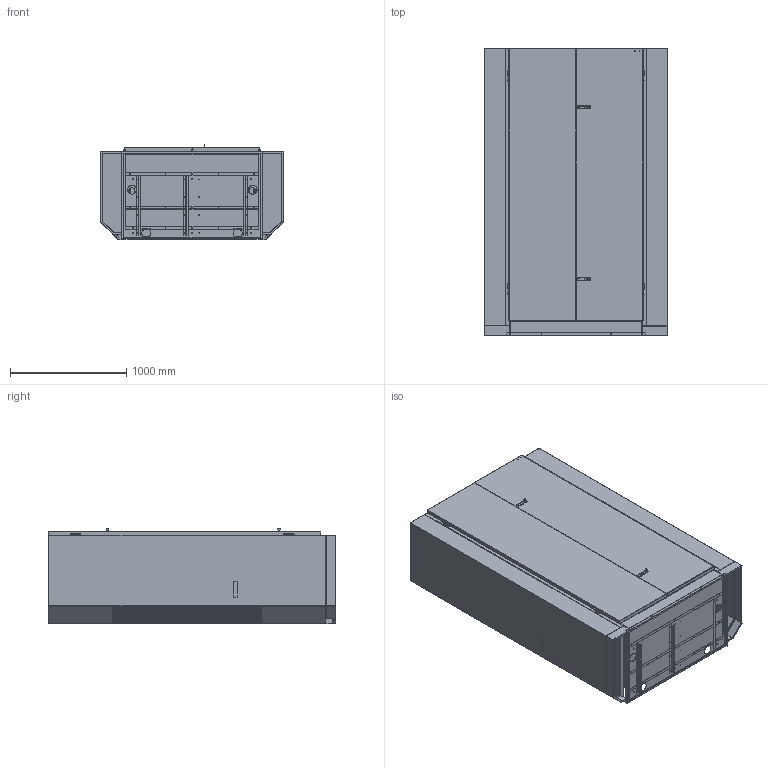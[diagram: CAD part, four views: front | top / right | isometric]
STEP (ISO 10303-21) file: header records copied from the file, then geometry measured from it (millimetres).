
FILE_DESCRIPTION (( 'STEP AP214' ), '1' );
FILE_NAME ('STEP_2300.STEP', '2016-07-13T13:34:13', ( 'BMC' ), ( 'Bard Manufacturing Co., Inc.' ), 'SwSTEP 2.0', 'SolidWorks 2016', '' );
FILE_SCHEMA (( 'AUTOMOTIVE_DESIGN' ));
Length unit declared in the file: inch
Products named in the file (1): STEP_2300
Bounding box: 1567.24 x 2470.45 x 821.52 mm (x, y, z)
Surface area: 39113940 mm2 (no closed solid volume)
Topology: 0 solids, 283 shells, 7345 faces, 20328 edges, 13403 vertices
Faces by surface type: plane 4527, cylinder 1876, cone 710, bspline 214, torus 12, sphere 6
Entity records: 259084 total; most frequent: CARTESIAN_POINT 63172, ORIENTED_EDGE 39584, DIRECTION 38511, EDGE_CURVE 20286, VECTOR 14909, LINE 14909, VERTEX_POINT 13403, AXIS2_PLACEMENT_3D 11801
